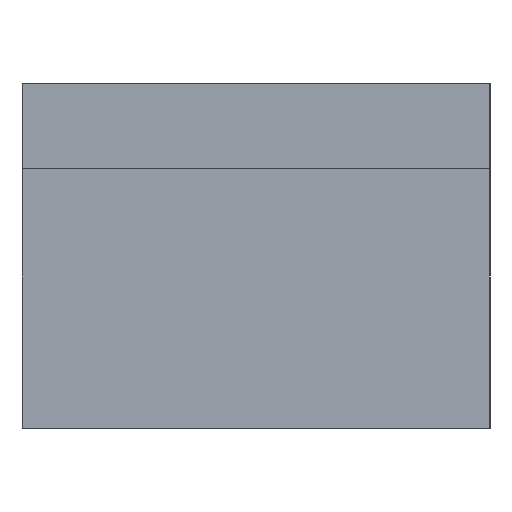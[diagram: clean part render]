
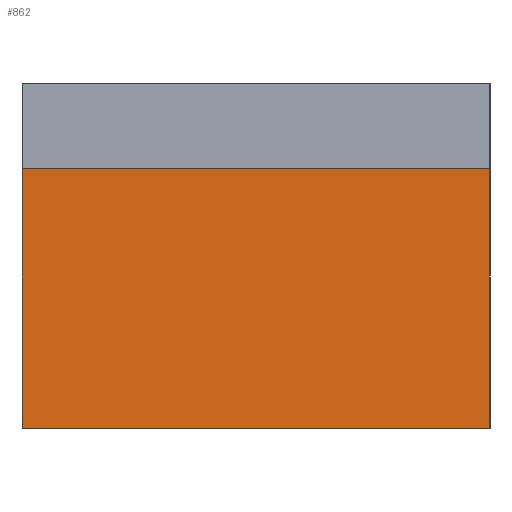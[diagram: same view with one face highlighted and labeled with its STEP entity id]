
A CAD part, left-side view. The second image highlights one B-rep face of the part: STEP entity #862.
In plain terms, the highlighted planar face has unit normal (-1, 0, 0).
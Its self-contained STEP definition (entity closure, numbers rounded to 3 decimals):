
#44 = PLANE('',#45);
#45 = AXIS2_PLACEMENT_3D('',#46,#47,#48);
#46 = CARTESIAN_POINT('',(16.,-26.,15.));
#47 = DIRECTION('',(0.,1.,0.));
#48 = DIRECTION('',(0.,0.,1.));
#100 = PLANE('',#101);
#101 = AXIS2_PLACEMENT_3D('',#102,#103,#104);
#102 = CARTESIAN_POINT('',(16.,-4.,15.));
#103 = DIRECTION('',(0.,1.,0.));
#104 = DIRECTION('',(0.,0.,1.));
#217 = VERTEX_POINT('',#218);
#218 = CARTESIAN_POINT('',(-68.,-26.,15.));
#232 = PLANE('',#233);
#233 = AXIS2_PLACEMENT_3D('',#234,#235,#236);
#234 = CARTESIAN_POINT('',(-68.,-26.,15.));
#235 = DIRECTION('',(0.,0.,1.));
#236 = DIRECTION('',(1.,0.,0.));
#244 = EDGE_CURVE('',#217,#245,#247,.T.);
#245 = VERTEX_POINT('',#246);
#246 = CARTESIAN_POINT('',(-68.,-26.,27.2));
#247 = SURFACE_CURVE('',#248,(#252,#259),.PCURVE_S1.);
#248 = LINE('',#249,#250);
#249 = CARTESIAN_POINT('',(-68.,-26.,15.));
#250 = VECTOR('',#251,1.);
#251 = DIRECTION('',(0.,0.,1.));
#252 = PCURVE('',#44,#253);
#253 = DEFINITIONAL_REPRESENTATION('',(#254),#258);
#254 = LINE('',#255,#256);
#255 = CARTESIAN_POINT('',(0.,-84.));
#256 = VECTOR('',#257,1.);
#257 = DIRECTION('',(1.,0.));
#258 = ( GEOMETRIC_REPRESENTATION_CONTEXT(2) 
PARAMETRIC_REPRESENTATION_CONTEXT() REPRESENTATION_CONTEXT('2D SPACE',''
  ) );
#259 = PCURVE('',#260,#265);
#260 = PLANE('',#261);
#261 = AXIS2_PLACEMENT_3D('',#262,#263,#264);
#262 = CARTESIAN_POINT('',(-68.,-26.,15.));
#263 = DIRECTION('',(1.,0.,0.));
#264 = DIRECTION('',(0.,0.,1.));
#265 = DEFINITIONAL_REPRESENTATION('',(#266),#270);
#266 = LINE('',#267,#268);
#267 = CARTESIAN_POINT('',(0.,0.));
#268 = VECTOR('',#269,1.);
#269 = DIRECTION('',(1.,0.));
#270 = ( GEOMETRIC_REPRESENTATION_CONTEXT(2) 
PARAMETRIC_REPRESENTATION_CONTEXT() REPRESENTATION_CONTEXT('2D SPACE',''
  ) );
#288 = PLANE('',#289);
#289 = AXIS2_PLACEMENT_3D('',#290,#291,#292);
#290 = CARTESIAN_POINT('',(-68.,-26.,27.2));
#291 = DIRECTION('',(0.,0.,1.));
#292 = DIRECTION('',(1.,0.,0.));
#570 = VERTEX_POINT('',#571);
#571 = CARTESIAN_POINT('',(-68.,-4.,15.));
#592 = EDGE_CURVE('',#593,#570,#595,.T.);
#593 = VERTEX_POINT('',#594);
#594 = CARTESIAN_POINT('',(-68.,-4.,27.2));
#595 = SURFACE_CURVE('',#596,(#600,#607),.PCURVE_S1.);
#596 = LINE('',#597,#598);
#597 = CARTESIAN_POINT('',(-68.,-4.,27.2));
#598 = VECTOR('',#599,1.);
#599 = DIRECTION('',(0.,0.,-1.));
#600 = PCURVE('',#100,#601);
#601 = DEFINITIONAL_REPRESENTATION('',(#602),#606);
#602 = LINE('',#603,#604);
#603 = CARTESIAN_POINT('',(12.2,-84.));
#604 = VECTOR('',#605,1.);
#605 = DIRECTION('',(-1.,0.));
#606 = ( GEOMETRIC_REPRESENTATION_CONTEXT(2) 
PARAMETRIC_REPRESENTATION_CONTEXT() REPRESENTATION_CONTEXT('2D SPACE',''
  ) );
#607 = PCURVE('',#260,#608);
#608 = DEFINITIONAL_REPRESENTATION('',(#609),#613);
#609 = LINE('',#610,#611);
#610 = CARTESIAN_POINT('',(12.2,-22.));
#611 = VECTOR('',#612,1.);
#612 = DIRECTION('',(-1.,0.));
#613 = ( GEOMETRIC_REPRESENTATION_CONTEXT(2) 
PARAMETRIC_REPRESENTATION_CONTEXT() REPRESENTATION_CONTEXT('2D SPACE',''
  ) );
#808 = EDGE_CURVE('',#217,#570,#809,.T.);
#809 = SURFACE_CURVE('',#810,(#814,#821),.PCURVE_S1.);
#810 = LINE('',#811,#812);
#811 = CARTESIAN_POINT('',(-68.,-26.,15.));
#812 = VECTOR('',#813,1.);
#813 = DIRECTION('',(0.,1.,0.));
#814 = PCURVE('',#232,#815);
#815 = DEFINITIONAL_REPRESENTATION('',(#816),#820);
#816 = LINE('',#817,#818);
#817 = CARTESIAN_POINT('',(0.,0.));
#818 = VECTOR('',#819,1.);
#819 = DIRECTION('',(0.,1.));
#820 = ( GEOMETRIC_REPRESENTATION_CONTEXT(2) 
PARAMETRIC_REPRESENTATION_CONTEXT() REPRESENTATION_CONTEXT('2D SPACE',''
  ) );
#821 = PCURVE('',#260,#822);
#822 = DEFINITIONAL_REPRESENTATION('',(#823),#827);
#823 = LINE('',#824,#825);
#824 = CARTESIAN_POINT('',(0.,0.));
#825 = VECTOR('',#826,1.);
#826 = DIRECTION('',(0.,-1.));
#827 = ( GEOMETRIC_REPRESENTATION_CONTEXT(2) 
PARAMETRIC_REPRESENTATION_CONTEXT() REPRESENTATION_CONTEXT('2D SPACE',''
  ) );
#862 = ADVANCED_FACE('',(#863),#260,.F.);
#863 = FACE_BOUND('',#864,.F.);
#864 = EDGE_LOOP('',(#865,#866,#867,#868));
#865 = ORIENTED_EDGE('',*,*,#244,.F.);
#866 = ORIENTED_EDGE('',*,*,#808,.T.);
#867 = ORIENTED_EDGE('',*,*,#592,.F.);
#868 = ORIENTED_EDGE('',*,*,#869,.F.);
#869 = EDGE_CURVE('',#245,#593,#870,.T.);
#870 = SURFACE_CURVE('',#871,(#875,#882),.PCURVE_S1.);
#871 = LINE('',#872,#873);
#872 = CARTESIAN_POINT('',(-68.,-26.,27.2));
#873 = VECTOR('',#874,1.);
#874 = DIRECTION('',(0.,1.,0.));
#875 = PCURVE('',#260,#876);
#876 = DEFINITIONAL_REPRESENTATION('',(#877),#881);
#877 = LINE('',#878,#879);
#878 = CARTESIAN_POINT('',(12.2,0.));
#879 = VECTOR('',#880,1.);
#880 = DIRECTION('',(0.,-1.));
#881 = ( GEOMETRIC_REPRESENTATION_CONTEXT(2) 
PARAMETRIC_REPRESENTATION_CONTEXT() REPRESENTATION_CONTEXT('2D SPACE',''
  ) );
#882 = PCURVE('',#288,#883);
#883 = DEFINITIONAL_REPRESENTATION('',(#884),#888);
#884 = LINE('',#885,#886);
#885 = CARTESIAN_POINT('',(0.,0.));
#886 = VECTOR('',#887,1.);
#887 = DIRECTION('',(0.,1.));
#888 = ( GEOMETRIC_REPRESENTATION_CONTEXT(2) 
PARAMETRIC_REPRESENTATION_CONTEXT() REPRESENTATION_CONTEXT('2D SPACE',''
  ) );
